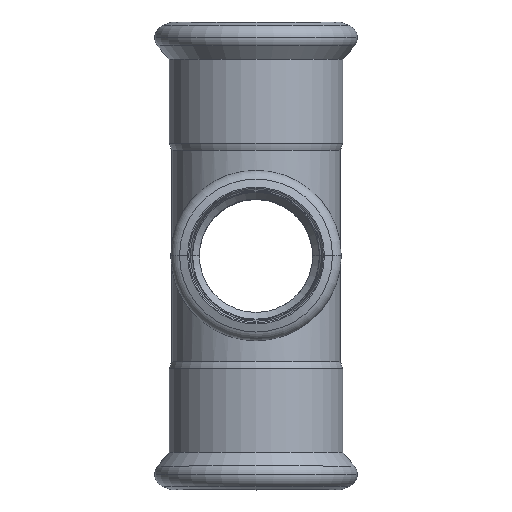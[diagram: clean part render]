
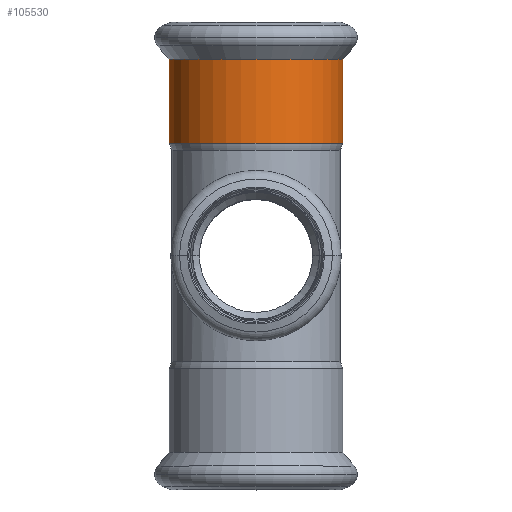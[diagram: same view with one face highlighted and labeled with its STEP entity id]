
A CAD part, top view. The second image highlights one B-rep face of the part: STEP entity #105530.
In plain terms, the highlighted cylindrical face has radius 19.1 mm (diameter 38.2 mm), a partial arc.
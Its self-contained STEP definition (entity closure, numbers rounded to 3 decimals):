
#104890=CARTESIAN_POINT('',(50.106,57.193,0.));
#104900=VERTEX_POINT('',#104890);
#104950=CARTESIAN_POINT('',(31.006,57.193,0.));
#104960=DIRECTION('',(0.,1.,0.));
#104970=DIRECTION('',(1.,0.,0.));
#104980=AXIS2_PLACEMENT_3D('',#104950,#104960,#104970);
#104990=CIRCLE('',#104980,19.1);
#105000=CARTESIAN_POINT('',(11.906,57.193,0.));
#105010=VERTEX_POINT('',#105000);
#105020=EDGE_CURVE('',#105010,#104900,#104990,.T.);
#105220=CARTESIAN_POINT('',(31.006,47.993,0.));
#105230=DIRECTION('',(0.,-1.,0.));
#105240=DIRECTION('',(-1.,0.,0.));
#105250=AXIS2_PLACEMENT_3D('',#105220,#105230,#105240);
#105260=CYLINDRICAL_SURFACE('',#105250,19.1);
#105270=CARTESIAN_POINT('',(50.106,47.993,0.));
#105280=DIRECTION('',(0.,-1.,0.));
#105290=VECTOR('',#105280,1.);
#105300=LINE('',#105270,#105290);
#105310=CARTESIAN_POINT('',(50.106,38.793,0.));
#105320=VERTEX_POINT('',#105310);
#105330=EDGE_CURVE('',#104900,#105320,#105300,.T.);
#105340=ORIENTED_EDGE('',*,*,#105330,.F.);
#105350=CARTESIAN_POINT('',(31.006,38.793,0.));
#105360=DIRECTION('',(0.,-1.,0.));
#105370=DIRECTION('',(-1.,0.,0.));
#105380=AXIS2_PLACEMENT_3D('',#105350,#105360,#105370);
#105390=CIRCLE('',#105380,19.1);
#105400=CARTESIAN_POINT('',(11.906,38.793,0.));
#105410=VERTEX_POINT('',#105400);
#105420=EDGE_CURVE('',#105320,#105410,#105390,.T.);
#105430=ORIENTED_EDGE('',*,*,#105420,.F.);
#105440=CARTESIAN_POINT('',(11.906,47.993,0.));
#105450=DIRECTION('',(0.,-1.,0.));
#105460=VECTOR('',#105450,1.);
#105470=LINE('',#105440,#105460);
#105480=EDGE_CURVE('',#105010,#105410,#105470,.T.);
#105490=ORIENTED_EDGE('',*,*,#105480,.T.);
#105500=ORIENTED_EDGE('',*,*,#105020,.F.);
#105510=EDGE_LOOP('',(#105500,#105490,#105430,#105340));
#105520=FACE_OUTER_BOUND('',#105510,.T.);
#105530=ADVANCED_FACE('',(#105520),#105260,.T.);
